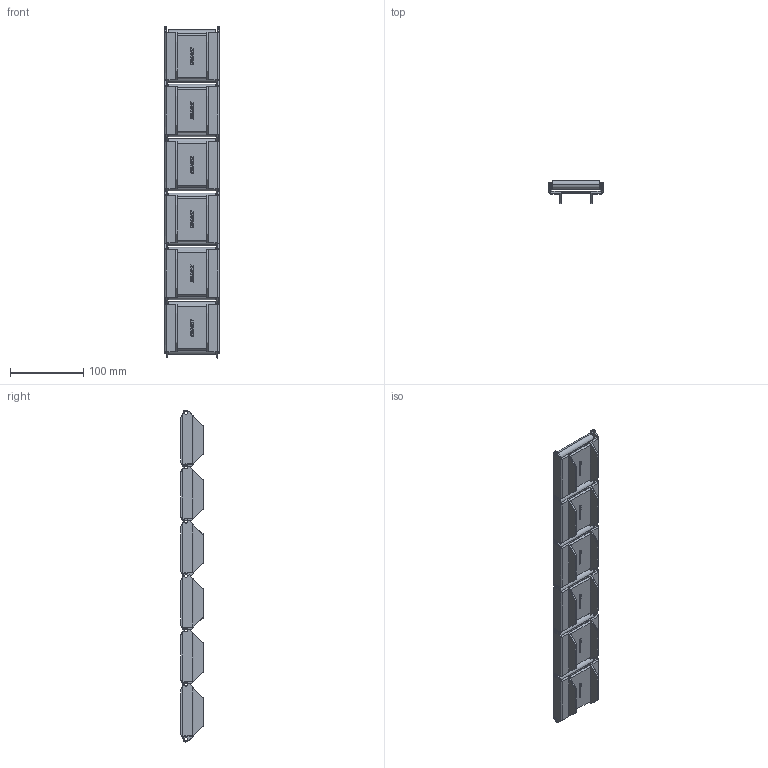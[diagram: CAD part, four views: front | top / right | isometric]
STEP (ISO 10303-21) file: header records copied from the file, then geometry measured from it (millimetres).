
FILE_DESCRIPTION(('STEP AP214'),'1');
FILE_NAME('P39601_01','2016-10-24T13:03:37',('dentellad'),(' '),'Spatial InterOp 3D',' ',' ');
FILE_SCHEMA(('automotive_design'));
Length unit declared in the file: millimetre
Products named in the file (12): 1; 2; 3; 4; 5; 6; 7; 8; 9; 10; 11; 12
Bounding box: 74 x 30.73 x 453.78 mm (x, y, z)
Volume: 453258.1 mm3; surface area: 172914.9 mm2
Topology: 12 solids, 12 shells, 3702 faces, 10608 edges, 6894 vertices
Faces by surface type: plane 2910, cylinder 438, torus 144, sphere 108, bspline 102
Entity records: 209369 total; most frequent: CARTESIAN_POINT 31176, ORIENTED_EDGE 21084, DIRECTION 18156, STYLED_ITEM 14220, PRESENTATION_STYLE_ASSIGNMENT 14220, COLOUR_RGB 14220, EDGE_CURVE 10542, CURVE_STYLE 10506
